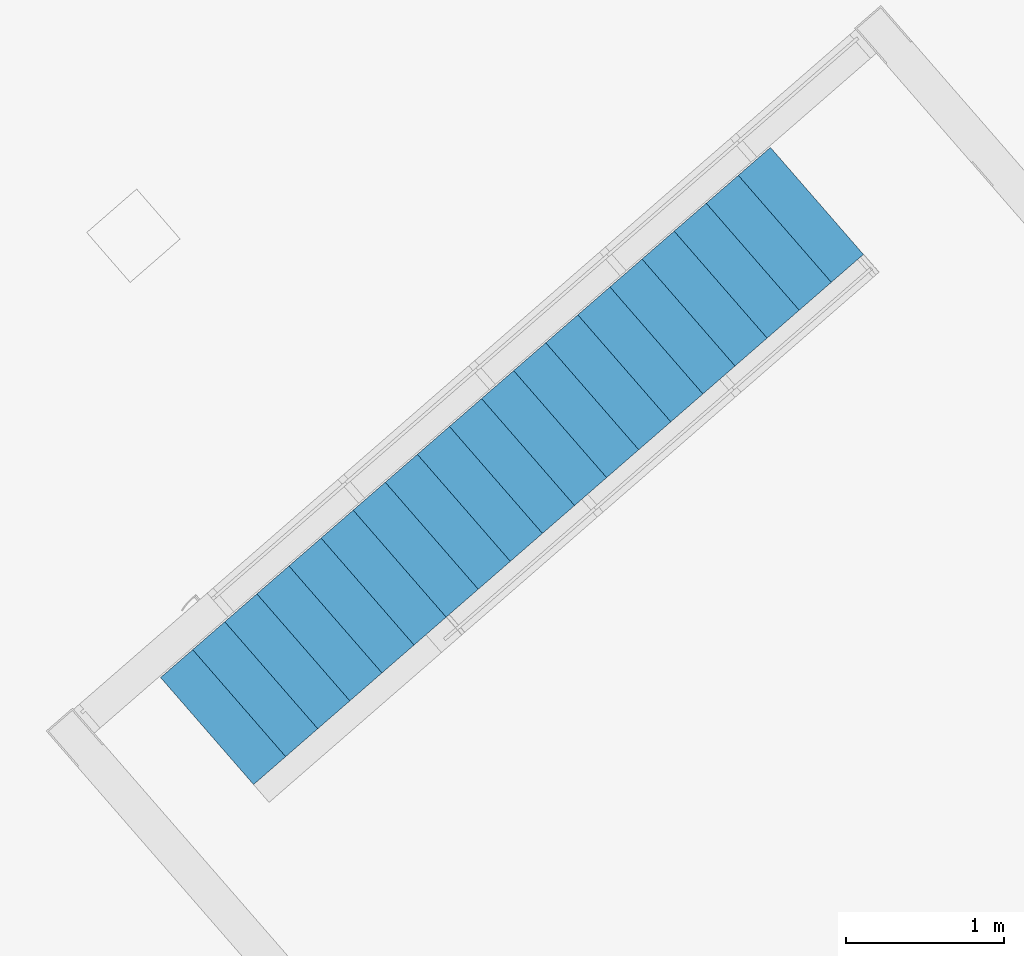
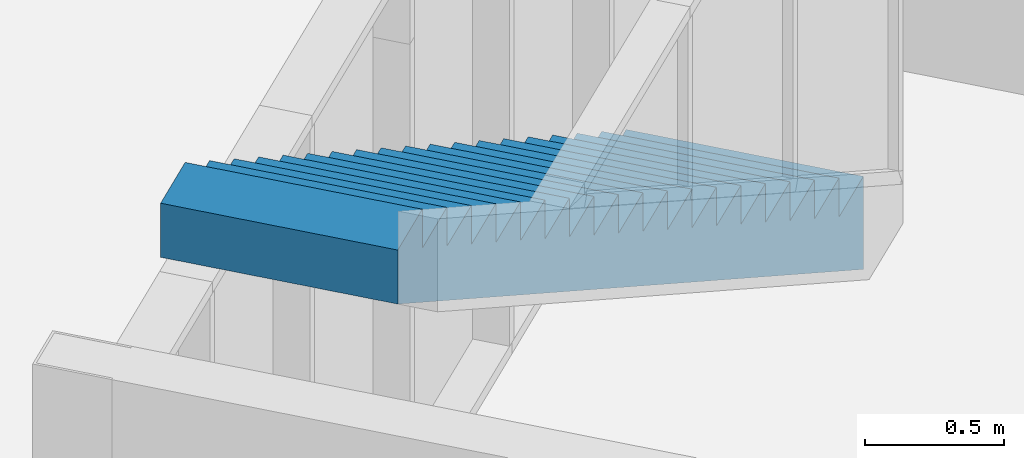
# One storey, part 102 of 124: 1 stair, 1 element without a shape of its own.
"""IFC2X3 building model written with IfcOpenShell, lengths in millimetres."""

from ifc_helpers import new_model, entity, si_unit, converted_unit, derived_unit, money_unit, direction, frame, origin_with_axes, place, context, subcontext, project, spatial, faceted_brep, material, element, aggregate, save


model = new_model("IFC2X3")

# Units and contexts
model_context = context("Model", 3, precision=1e-05, world=origin_with_axes(), true_north=direction((0.0, 1.0)))
body_context = subcontext(model_context, "Body", "Model", "MODEL_VIEW")
ifc_project = project(units=[si_unit("LENGTHUNIT", "METRE", prefix="MILLI"), si_unit("AREAUNIT", "SQUARE_METRE"), si_unit("VOLUMEUNIT", "CUBIC_METRE"), converted_unit("PLANEANGLEUNIT", "DEGREE", entity("IfcPlaneAngleMeasure", 0.0174532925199), si_unit("PLANEANGLEUNIT", "RADIAN"), dimensions=[0, 0, 0, 0, 0, 0, 0]), si_unit("SOLIDANGLEUNIT", "STERADIAN"), money_unit("EUR"), converted_unit("TIMEUNIT", "Year", entity("IfcTimeMeasure", 31556926.0), si_unit("TIMEUNIT", "SECOND"), dimensions=[0, 0, 1, 0, 0, 0, 0]), si_unit("MASSUNIT", "GRAM", prefix="KILO"), si_unit("THERMODYNAMICTEMPERATUREUNIT", "DEGREE_CELSIUS"), si_unit("LUMINOUSINTENSITYUNIT", "LUMEN"), si_unit("ENERGYUNIT", "JOULE", prefix="MEGA"), derived_unit("THERMALCONDUCTANCEUNIT", [(si_unit("POWERUNIT", "WATT"), 1), (si_unit("LENGTHUNIT", "METRE"), -1), (si_unit("THERMODYNAMICTEMPERATUREUNIT", "KELVIN"), -1)]), derived_unit("SPECIFICHEATCAPACITYUNIT", [(si_unit("ENERGYUNIT", "JOULE"), 1), (si_unit("MASSUNIT", "GRAM", prefix="KILO"), -1), (si_unit("THERMODYNAMICTEMPERATUREUNIT", "KELVIN"), -1)]), derived_unit("MASSDENSITYUNIT", [(si_unit("MASSUNIT", "GRAM", prefix="KILO"), 1), (si_unit("VOLUMEUNIT", "CUBIC_METRE"), -1)])], contexts=[model_context])

# Site, building, storey
site_placement = place(None, origin_with_axes())
site = spatial("IfcSite", under=ifc_project, at=site_placement, Name="Site", CompositionType="ELEMENT")
building_placement = place(site_placement, origin_with_axes())
building = spatial("IfcBuilding", under=site, at=building_placement, Name="Building", CompositionType="ELEMENT")
storey_placement = place(building_placement, frame((0.0, 0.0, -1615.0), z_axis=(0.0, 0.0, 1.0), x_axis=(1.0, 0.0, 0.0)))
storey = spatial("IfcBuildingStorey", under=building, at=storey_placement, Name="0  korrus", CompositionType="ELEMENT", Elevation=-1615.0)

# Stairs
stair_1_placement = place(storey_placement, frame((159587.108778, 89137.2805139, 0.0), z_axis=(0.0, 0.0, 1.0), x_axis=(0.00233643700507, -0.999997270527, 0.0)))
stair_1 = element("IfcStair", 1, at=stair_1_placement, inside=storey, Name="T-05", ShapeType="NOTDEFINED")
ifc_material = material(Name="GENEERILINE - KONSTRUKTRIOON")
stair_2_placement = place(stair_1_placement, origin_with_axes())
stair_2 = element("IfcStair", 2, at=stair_2_placement, material=ifc_material, Name="GENEERILINE - KONSTRUKTRIOON", ShapeType="NOTDEFINED", context=body_context, shape_type="Brep", body=[
    faceted_brep([(2675.91141923, -4468.37756646, 3244.25), (2675.91141923, -4468.37756646, 3007.61195328), (3356.52774379, -3879.51305, 3007.61195328), (3356.52774379, -3879.51305, 3244.25), (2617.02496759, -4400.315934, 2950.69528661), (2646.46819341, -4434.34675023, 2979.15361994), (2499.25206429, -4264.19266909, 3244.25), (2499.25206429, -4264.19266909, 3073.5), (2322.59270936, -4060.00777172, 3073.5), (2322.59270936, -4060.00777172, 2902.75), (2145.93335442, -3855.82287435, 2902.75), (2145.93335442, -3855.82287435, 2732.0), (1969.27399949, -3651.63797698, 2732.0), (1969.27399949, -3651.63797698, 2561.25), (1792.61464455, -3447.45307962, 2561.25), (1792.61464455, -3447.45307962, 2390.5), (1615.95528961, -3243.26818225, 2390.5), (1615.95528961, -3243.26818225, 2219.75), (1439.29593468, -3039.08328488, 2219.75), (1439.29593468, -3039.08328488, 2049.0), (1262.63657974, -2834.89838751, 2049.0), (1262.63657974, -2834.89838751, 1878.25), (1085.9772248, -2630.71349014, 1878.25), (1085.9772248, -2630.71349014, 1707.5), (909.317869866, -2426.52859277, 1707.5), (909.317869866, -2426.52859277, 1536.75), (732.65851493, -2222.3436954, 1536.75), (732.65851493, -2222.3436954, 1366.0), (555.999159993, -2018.15879804, 1366.0), (555.999159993, -2018.15879804, 1195.25), (379.339805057, -1813.97390067, 1195.25), (379.339805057, -1813.97390067, 1024.5), (202.68045012, -1609.7890033, 1024.5), (202.68045012, -1609.7890033, 853.75), (26.021095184, -1405.60410593, 853.75), (26.021095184, -1405.60410593, 683.0), (-150.638259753, -1201.41920856, 683.0), (-150.638259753, -1201.41920856, 512.25), (-327.297614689, -997.234311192, 512.25), (-327.297614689, -997.234311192, 341.5), (-503.956969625, -793.049413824, 341.5), (-503.956969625, -793.049413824, 170.75), (-680.616324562, -588.864516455, 170.75), (-680.616324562, -588.864516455, -236.638046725), (-651.173098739, -622.895332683, -208.179713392), (-621.729872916, -656.926148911, -179.721380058), (-592.286647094, -690.956965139, -151.263046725), (-562.843421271, -724.987781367, -122.804713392), (-533.400195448, -759.018597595, -94.3463800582), (-503.956969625, -793.049413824, -65.8880467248), (-474.513743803, -827.080230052, -37.4297133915), (-445.07051798, -861.11104628, -8.97138005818), (-415.627292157, -895.141862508, 19.4869532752), (-386.184066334, -929.172678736, 47.9452866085), (-356.740840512, -963.203494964, 76.4036199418), (-327.297614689, -997.234311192, 104.861953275), (-297.854388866, -1031.26512742, 133.320286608), (-268.411163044, -1065.29594365, 161.778619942), (-238.967937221, -1099.32675988, 190.236953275), (-209.524711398, -1133.3575761, 218.695286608), (-180.081485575, -1167.38839233, 247.153619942), (-150.638259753, -1201.41920856, 275.611953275), (-121.19503393, -1235.45002479, 304.070286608), (-91.751808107, -1269.48084102, 332.528619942), (-62.3085822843, -1303.51165725, 360.986953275), (-32.8653564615, -1337.54247347, 389.445286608), (-3.42213063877, -1371.5732897, 417.903619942), (26.021095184, -1405.60410593, 446.361953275), (55.4643210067, -1439.63492216, 474.820286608), (84.9075468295, -1473.66573839, 503.278619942), (114.350772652, -1507.69655461, 531.736953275), (143.793998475, -1541.72737084, 560.195286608), (173.237224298, -1575.75818707, 588.653619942), (202.68045012, -1609.7890033, 617.111953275), (232.123675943, -1643.81981953, 645.570286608), (261.566901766, -1677.85063575, 674.028619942), (291.010127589, -1711.88145198, 702.486953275), (320.453353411, -1745.91226821, 730.945286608), (349.896579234, -1779.94308444, 759.403619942), (379.339805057, -1813.97390067, 787.861953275), (408.78303088, -1848.00471689, 816.320286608), (438.226256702, -1882.03553312, 844.778619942), (467.669482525, -1916.06634935, 873.236953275), (497.112708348, -1950.09716558, 901.695286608), (526.555934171, -1984.12798181, 930.153619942), (555.999159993, -2018.15879804, 958.611953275), (585.442385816, -2052.18961426, 987.070286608), (614.885611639, -2086.22043049, 1015.52861994), (644.328837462, -2120.25124672, 1043.98695328), (673.772063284, -2154.28206295, 1072.44528661), (703.215289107, -2188.31287918, 1100.90361994), (732.65851493, -2222.3436954, 1129.36195328), (762.101740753, -2256.37451163, 1157.82028661), (791.544966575, -2290.40532786, 1186.27861994), (820.988192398, -2324.43614409, 1214.73695328), (850.431418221, -2358.46696032, 1243.19528661), (879.874644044, -2392.49777654, 1271.65361994), (909.317869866, -2426.52859277, 1300.11195328), (938.761095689, -2460.559409, 1328.57028661), (968.204321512, -2494.59022523, 1357.02861994), (997.647547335, -2528.62104146, 1385.48695328), (1027.09077316, -2562.65185768, 1413.94528661), (1056.53399898, -2596.68267391, 1442.40361994), (1085.9772248, -2630.71349014, 1470.86195328), (1115.42045063, -2664.74430637, 1499.32028661), (1144.86367645, -2698.7751226, 1527.77861994), (1174.30690227, -2732.80593883, 1556.23695328), (1203.75012809, -2766.83675505, 1584.69528661), (1233.19335392, -2800.86757128, 1613.15361994), (1262.63657974, -2834.89838751, 1641.61195328), (1292.07980556, -2868.92920374, 1670.07028661), (1321.52303138, -2902.96001997, 1698.52861994), (1350.96625721, -2936.99083619, 1726.98695328), (1380.40948303, -2971.02165242, 1755.44528661), (1409.85270885, -3005.05246865, 1783.90361994), (1439.29593468, -3039.08328488, 1812.36195328), (1468.7391605, -3073.11410111, 1840.82028661), (1498.18238632, -3107.14491733, 1869.27861994), (1527.62561214, -3141.17573356, 1897.73695328), (1557.06883797, -3175.20654979, 1926.19528661), (1586.51206379, -3209.23736602, 1954.65361994), (1615.95528961, -3243.26818225, 1983.11195328), (1645.39851544, -3277.29899847, 2011.57028661), (1674.84174126, -3311.3298147, 2040.02861994), (1704.28496708, -3345.36063093, 2068.48695328), (1733.7281929, -3379.39144716, 2096.94528661), (1763.17141873, -3413.42226339, 2125.40361994), (1792.61464455, -3447.45307962, 2153.86195328), (1822.05787037, -3481.48389584, 2182.32028661), (1851.50109619, -3515.51471207, 2210.77861994), (1880.94432202, -3549.5455283, 2239.23695328), (1910.38754784, -3583.57634453, 2267.69528661), (1939.83077366, -3617.60716076, 2296.15361994), (1969.27399949, -3651.63797698, 2324.61195328), (1998.71722531, -3685.66879321, 2353.07028661), (2028.16045113, -3719.69960944, 2381.52861994), (2057.60367695, -3753.73042567, 2409.98695328), (2087.04690278, -3787.7612419, 2438.44528661), (2116.4901286, -3821.79205812, 2466.90361994), (2145.93335442, -3855.82287435, 2495.36195328), (2175.37658024, -3889.85369058, 2523.82028661), (2204.81980607, -3923.88450681, 2552.27861994), (2234.26303189, -3957.91532304, 2580.73695328), (2263.70625771, -3991.94613926, 2609.19528661), (2293.14948354, -4025.97695549, 2637.65361994), (2322.59270936, -4060.00777172, 2666.11195328), (2352.03593518, -4094.03858795, 2694.57028661), (2381.479161, -4128.06940418, 2723.02861994), (2410.92238683, -4162.10022041, 2751.48695328), (2440.36561265, -4196.13103663, 2779.94528661), (2469.80883847, -4230.16185286, 2808.40361994), (2499.25206429, -4264.19266909, 2836.86195328), (2528.69529012, -4298.22348532, 2865.32028661), (2558.13851594, -4332.25430155, 2893.77861994), (2587.58174176, -4366.28511777, 2922.23695328), (3327.08451797, -3845.48223378, 2979.15361994), (2957.33312987, -4105.88367577, 2950.69528661), (58.8864516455, -68.0616324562, -179.721380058), (29.4432258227, -34.0308162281, -208.179713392), (0.0, 0.0, -236.638046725), (0.0, 0.0, 170.75), (176.659354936, -204.184897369, 170.75), (176.659354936, -204.184897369, 341.5), (353.318709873, -408.369794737, 341.5), (353.318709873, -408.369794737, 512.25), (529.978064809, -612.554692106, 512.25), (529.978064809, -612.554692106, 683.0), (706.637419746, -816.739589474, 683.0), (706.637419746, -816.739589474, 853.75), (883.296774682, -1020.92448684, 853.75), (883.296774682, -1020.92448684, 1024.5), (1059.95612962, -1225.10938421, 1024.5), (1059.95612962, -1225.10938421, 1195.25), (1236.61548456, -1429.29428158, 1195.25), (1236.61548456, -1429.29428158, 1366.0), (1413.27483949, -1633.47917895, 1366.0), (1413.27483949, -1633.47917895, 1536.75), (1589.93419443, -1837.66407632, 1536.75), (1589.93419443, -1837.66407632, 1707.5), (1766.59354936, -2041.84897369, 1707.5), (1766.59354936, -2041.84897369, 1878.25), (1943.2529043, -2246.03387105, 1878.25), (1943.2529043, -2246.03387105, 2049.0), (2119.91225924, -2450.21876842, 2049.0), (2119.91225924, -2450.21876842, 2219.75), (2296.57161417, -2654.40366579, 2219.75), (2296.57161417, -2654.40366579, 2390.5), (2473.23096911, -2858.58856316, 2390.5), (2473.23096911, -2858.58856316, 2561.25), (2649.89032405, -3062.77346053, 2561.25), (2649.89032405, -3062.77346053, 2732.0), (2826.54967898, -3266.9583579, 2732.0), (2826.54967898, -3266.9583579, 2902.75), (3003.20903392, -3471.14325527, 2902.75), (3003.20903392, -3471.14325527, 3073.5), (3179.86838886, -3675.32815263, 3073.5), (3179.86838886, -3675.32815263, 3244.25), (3297.64129215, -3811.45141755, 2950.69528661), (3268.19806633, -3777.42060132, 2922.23695328), (3238.7548405, -3743.38978509, 2893.77861994), (3209.31161468, -3709.35896886, 2865.32028661), (3179.86838886, -3675.32815263, 2836.86195328), (3150.42516303, -3641.29733641, 2808.40361994), (3120.98193721, -3607.26652018, 2779.94528661), (3091.53871139, -3573.23570395, 2751.48695328), (3062.09548557, -3539.20488772, 2723.02861994), (3032.65225974, -3505.17407149, 2694.57028661), (3003.20903392, -3471.14325527, 2666.11195328), (2973.7658081, -3437.11243904, 2637.65361994), (2944.32258227, -3403.08162281, 2609.19528661), (2914.87935645, -3369.05080658, 2580.73695328), (2885.43613063, -3335.01999035, 2552.27861994), (2855.99290481, -3300.98917413, 2523.82028661), (2826.54967898, -3266.9583579, 2495.36195328), (2797.10645316, -3232.92754167, 2466.90361994), (2767.66322734, -3198.89672544, 2438.44528661), (2738.22000152, -3164.86590921, 2409.98695328), (2708.77677569, -3130.83509299, 2381.52861994), (2679.33354987, -3096.80427676, 2353.07028661), (2649.89032405, -3062.77346053, 2324.61195328), (2620.44709822, -3028.7426443, 2296.15361994), (2591.0038724, -2994.71182807, 2267.69528661), (2561.56064658, -2960.68101184, 2239.23695328), (2532.11742076, -2926.65019562, 2210.77861994), (2502.67419493, -2892.61937939, 2182.32028661), (2473.23096911, -2858.58856316, 2153.86195328), (2443.78774329, -2824.55774693, 2125.40361994), (2414.34451747, -2790.5269307, 2096.94528661), (2384.90129164, -2756.49611448, 2068.48695328), (2355.45806582, -2722.46529825, 2040.02861994), (2326.01484, -2688.43448202, 2011.57028661), (2296.57161417, -2654.40366579, 1983.11195328), (2267.12838835, -2620.37284956, 1954.65361994), (2237.68516253, -2586.34203334, 1926.19528661), (2208.24193671, -2552.31121711, 1897.73695328), (2178.79871088, -2518.28040088, 1869.27861994), (2149.35548506, -2484.24958465, 1840.82028661), (2119.91225924, -2450.21876842, 1812.36195328), (2090.46903342, -2416.1879522, 1783.90361994), (2061.02580759, -2382.15713597, 1755.44528661), (2031.58258177, -2348.12631974, 1726.98695328), (2002.13935595, -2314.09550351, 1698.52861994), (1972.69613012, -2280.06468728, 1670.07028661), (1943.2529043, -2246.03387105, 1641.61195328), (1913.80967848, -2212.00305483, 1613.15361994), (1884.36645266, -2177.9722386, 1584.69528661), (1854.92322683, -2143.94142237, 1556.23695328), (1825.48000101, -2109.91060614, 1527.77861994), (1796.03677519, -2075.87978991, 1499.32028661), (1766.59354936, -2041.84897369, 1470.86195328), (1737.15032354, -2007.81815746, 1442.40361994), (1707.70709772, -1973.78734123, 1413.94528661), (1678.2638719, -1939.756525, 1385.48695328), (1648.82064607, -1905.72570877, 1357.02861994), (1619.37742025, -1871.69489255, 1328.57028661), (1589.93419443, -1837.66407632, 1300.11195328), (1560.49096861, -1803.63326009, 1271.65361994), (1531.04774278, -1769.60244386, 1243.19528661), (1501.60451696, -1735.57162763, 1214.73695328), (1472.16129114, -1701.5408114, 1186.27861994), (1442.71806531, -1667.50999518, 1157.82028661), (1413.27483949, -1633.47917895, 1129.36195328), (1383.83161367, -1599.44836272, 1100.90361994), (1354.38838785, -1565.41754649, 1072.44528661), (1324.94516202, -1531.38673026, 1043.98695328), (1295.5019362, -1497.35591404, 1015.52861994), (1266.05871038, -1463.32509781, 987.070286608), (1236.61548456, -1429.29428158, 958.611953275), (1207.17225873, -1395.26346535, 930.153619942), (1177.72903291, -1361.23264912, 901.695286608), (1148.28580709, -1327.2018329, 873.236953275), (1118.84258126, -1293.17101667, 844.778619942), (1089.39935544, -1259.14020044, 816.320286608), (1059.95612962, -1225.10938421, 787.861953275), (1030.5129038, -1191.07856798, 759.403619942), (1001.06967797, -1157.04775176, 730.945286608), (971.626452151, -1123.01693553, 702.486953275), (942.183226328, -1088.9861193, 674.028619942), (912.740000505, -1054.95530307, 645.570286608), (883.296774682, -1020.92448684, 617.111953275), (853.85354886, -986.893670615, 588.653619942), (824.410323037, -952.862854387, 560.195286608), (794.967097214, -918.832038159, 531.736953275), (765.523871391, -884.801221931, 503.278619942), (736.080645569, -850.770405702, 474.820286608), (706.637419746, -816.739589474, 446.361953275), (677.194193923, -782.708773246, 417.903619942), (647.7509681, -748.677957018, 389.445286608), (618.307742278, -714.64714079, 360.986953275), (588.864516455, -680.616324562, 332.528619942), (559.421290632, -646.585508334, 304.070286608), (529.978064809, -612.554692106, 275.611953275), (500.534838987, -578.523875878, 247.153619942), (471.091613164, -544.49305965, 218.695286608), (441.648387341, -510.462243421, 190.236953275), (412.205161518, -476.431427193, 161.778619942), (382.761935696, -442.400610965, 133.320286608), (353.318709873, -408.369794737, 104.861953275), (323.87548405, -374.338978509, 76.4036199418), (294.432258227, -340.308162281, 47.9452866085), (264.989032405, -306.277346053, 19.4869532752), (235.545806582, -272.246529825, -8.97138005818), (206.102580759, -238.215713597, -37.4297133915), (176.659354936, -204.184897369, -65.8880467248), (147.216129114, -170.15408114, -94.3463800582), (117.772903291, -136.123264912, -122.804713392), (88.3296774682, -102.092448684, -151.263046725), (-281.421710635, -362.493890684, -179.721380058), (-222.53525899, -430.55552314, -122.804713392), (-163.648807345, -498.617155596, -65.8880467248), (-104.762355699, -566.678788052, -8.97138005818), (-45.8759040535, -634.740420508, 47.9452866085), (13.010547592, -702.802052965, 104.861953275), (71.8969992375, -770.863685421, 161.778619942), (130.783450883, -838.925317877, 218.695286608), (189.669902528, -906.986950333, 275.611953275), (248.556354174, -975.048582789, 332.528619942), (307.442805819, -1043.11021525, 389.445286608), (366.329257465, -1111.1718477, 446.361953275), (425.21570911, -1179.23348016, 503.278619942), (484.102160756, -1247.29511261, 560.195286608), (542.988612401, -1315.35674507, 617.111953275), (601.875064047, -1383.41837753, 674.028619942), (660.761515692, -1451.48000998, 730.945286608), (719.647967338, -1519.54164244, 787.861953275), (778.534418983, -1587.6032749, 844.778619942), (837.420870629, -1655.66490735, 901.695286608), (896.307322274, -1723.72653981, 958.611953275), (955.19377392, -1791.78817226, 1015.52861994), (1014.08022557, -1859.84980472, 1072.44528661), (1072.96667721, -1927.91143718, 1129.36195328), (1131.85312886, -1995.97306963, 1186.27861994), (1190.7395805, -2064.03470209, 1243.19528661), (1249.62603215, -2132.09633454, 1300.11195328), (1308.51248379, -2200.157967, 1357.02861994), (1367.39893544, -2268.21959946, 1413.94528661), (1426.28538708, -2336.28123191, 1470.86195328), (1485.17183873, -2404.34286437, 1527.77861994), (1544.05829037, -2472.40449683, 1584.69528661), (1602.94474202, -2540.46612928, 1641.61195328), (1661.83119367, -2608.52776174, 1698.52861994), (1720.71764531, -2676.58939419, 1755.44528661), (1779.60409696, -2744.65102665, 1812.36195328), (1838.4905486, -2812.71265911, 1869.27861994), (1897.37700025, -2880.77429156, 1926.19528661), (1956.26345189, -2948.83592402, 1983.11195328), (2015.14990354, -3016.89755648, 2040.02861994), (2074.03635518, -3084.95918893, 2096.94528661), (2132.92280683, -3153.02082139, 2153.86195328), (2191.80925848, -3221.08245384, 2210.77861994), (2250.69571012, -3289.1440863, 2267.69528661), (2309.58216177, -3357.20571876, 2324.61195328), (2368.46861341, -3425.26735121, 2381.52861994), (2427.35506506, -3493.32898367, 2438.44528661), (2486.2415167, -3561.39061612, 2495.36195328), (2545.12796835, -3629.45224858, 2552.27861994), (2604.01441999, -3697.51388104, 2609.19528661), (2662.90087164, -3765.57551349, 2666.11195328), (2721.78732328, -3833.63714595, 2723.02861994), (2780.67377493, -3901.69877841, 2779.94528661), (2839.56022658, -3969.76041086, 2836.86195328), (2898.44667822, -4037.82204332, 2893.77861994)], [[[0, 1, 2, 3]], [[4, 5, 1, 0, 6, 7, 8, 9, 10, 11, 12, 13, 14, 15, 16, 17, 18, 19, 20, 21, 22, 23, 24, 25, 26, 27, 28, 29, 30, 31, 32, 33, 34, 35, 36, 37, 38, 39, 40, 41, 42, 43, 44, 45, 46, 47, 48, 49, 50, 51, 52, 53, 54, 55, 56, 57, 58, 59, 60, 61, 62, 63, 64, 65, 66, 67, 68, 69, 70, 71, 72, 73, 74, 75, 76, 77, 78, 79, 80, 81, 82, 83, 84, 85, 86, 87, 88, 89, 90, 91, 92, 93, 94, 95, 96, 97, 98, 99, 100, 101, 102, 103, 104, 105, 106, 107, 108, 109, 110, 111, 112, 113, 114, 115, 116, 117, 118, 119, 120, 121, 122, 123, 124, 125, 126, 127, 128, 129, 130, 131, 132, 133, 134, 135, 136, 137, 138, 139, 140, 141, 142, 143, 144, 145, 146, 147, 148, 149, 150, 151, 152, 153, 154]], [[155, 2, 1, 5, 156]], [[157, 158, 159, 160, 161, 162, 163, 164, 165, 166, 167, 168, 169, 170, 171, 172, 173, 174, 175, 176, 177, 178, 179, 180, 181, 182, 183, 184, 185, 186, 187, 188, 189, 190, 191, 192, 193, 194, 195, 196, 3, 2, 155, 197, 198, 199, 200, 201, 202, 203, 204, 205, 206, 207, 208, 209, 210, 211, 212, 213, 214, 215, 216, 217, 218, 219, 220, 221, 222, 223, 224, 225, 226, 227, 228, 229, 230, 231, 232, 233, 234, 235, 236, 237, 238, 239, 240, 241, 242, 243, 244, 245, 246, 247, 248, 249, 250, 251, 252, 253, 254, 255, 256, 257, 258, 259, 260, 261, 262, 263, 264, 265, 266, 267, 268, 269, 270, 271, 272, 273, 274, 275, 276, 277, 278, 279, 280, 281, 282, 283, 284, 285, 286, 287, 288, 289, 290, 291, 292, 293, 294, 295, 296, 297, 298, 299, 300, 301, 302, 303, 304, 305, 306]], [[6, 0, 3, 196]], [[156, 5, 4]], [[6, 196, 195, 7]], [[194, 8, 7, 195]], [[8, 194, 193, 9]], [[192, 10, 9, 193]], [[10, 192, 191, 11]], [[190, 12, 11, 191]], [[12, 190, 189, 13]], [[188, 14, 13, 189]], [[14, 188, 187, 15]], [[186, 16, 15, 187]], [[16, 186, 185, 17]], [[184, 18, 17, 185]], [[18, 184, 183, 19]], [[182, 20, 19, 183]], [[20, 182, 181, 21]], [[180, 22, 21, 181]], [[22, 180, 179, 23]], [[178, 24, 23, 179]], [[24, 178, 177, 25]], [[176, 26, 25, 177]], [[26, 176, 175, 27]], [[174, 28, 27, 175]], [[28, 174, 173, 29]], [[172, 30, 29, 173]], [[30, 172, 171, 31]], [[170, 32, 31, 171]], [[32, 170, 169, 33]], [[168, 34, 33, 169]], [[34, 168, 167, 35]], [[166, 36, 35, 167]], [[36, 166, 165, 37]], [[164, 38, 37, 165]], [[38, 164, 163, 39]], [[162, 40, 39, 163]], [[40, 162, 161, 41]], [[160, 42, 41, 161]], [[160, 159, 43, 42]], [[43, 159, 158, 307, 44]], [[307, 45, 44]], [[307, 46, 45]], [[308, 47, 46]], [[308, 48, 47]], [[309, 49, 48]], [[309, 50, 49]], [[310, 51, 50]], [[310, 52, 51]], [[311, 53, 52]], [[311, 54, 53]], [[312, 55, 54]], [[312, 56, 55]], [[313, 57, 56]], [[313, 58, 57]], [[314, 59, 58]], [[314, 60, 59]], [[315, 61, 60]], [[315, 62, 61]], [[316, 63, 62]], [[316, 64, 63]], [[317, 65, 64]], [[317, 66, 65]], [[318, 67, 66]], [[318, 68, 67]], [[319, 69, 68]], [[319, 70, 69]], [[320, 71, 70]], [[320, 72, 71]], [[321, 73, 72]], [[321, 74, 73]], [[322, 75, 74]], [[322, 76, 75]], [[323, 77, 76]], [[323, 78, 77]], [[324, 79, 78]], [[324, 80, 79]], [[325, 81, 80]], [[325, 82, 81]], [[326, 83, 82]], [[326, 84, 83]], [[327, 85, 84]], [[327, 86, 85]], [[328, 87, 86]], [[328, 88, 87]], [[329, 89, 88]], [[329, 90, 89]], [[330, 91, 90]], [[330, 92, 91]], [[331, 93, 92]], [[331, 94, 93]], [[332, 95, 94]], [[332, 96, 95]], [[333, 97, 96]], [[333, 98, 97]], [[334, 99, 98]], [[334, 100, 99]], [[335, 101, 100]], [[335, 102, 101]], [[336, 103, 102]], [[336, 104, 103]], [[337, 105, 104]], [[337, 106, 105]], [[338, 107, 106]], [[338, 108, 107]], [[339, 109, 108]], [[339, 110, 109]], [[340, 111, 110]], [[340, 112, 111]], [[341, 113, 112]], [[341, 114, 113]], [[342, 115, 114]], [[342, 116, 115]], [[343, 117, 116]], [[343, 118, 117]], [[344, 119, 118]], [[344, 120, 119]], [[345, 121, 120]], [[345, 122, 121]], [[346, 123, 122]], [[346, 124, 123]], [[347, 125, 124]], [[347, 126, 125]], [[348, 127, 126]], [[348, 128, 127]], [[349, 129, 128]], [[349, 130, 129]], [[350, 131, 130]], [[350, 132, 131]], [[351, 133, 132]], [[351, 134, 133]], [[352, 135, 134]], [[352, 136, 135]], [[353, 137, 136]], [[353, 138, 137]], [[354, 139, 138]], [[354, 140, 139]], [[355, 141, 140]], [[355, 142, 141]], [[356, 143, 142]], [[356, 144, 143]], [[357, 145, 144]], [[357, 146, 145]], [[358, 147, 146]], [[358, 148, 147]], [[359, 149, 148]], [[359, 150, 149]], [[360, 151, 150]], [[360, 152, 151]], [[361, 153, 152]], [[361, 154, 153]], [[156, 4, 154]], [[156, 197, 155]], [[307, 158, 157]], [[156, 198, 197]], [[361, 199, 198]], [[361, 200, 199]], [[360, 201, 200]], [[360, 202, 201]], [[359, 203, 202]], [[359, 204, 203]], [[358, 205, 204]], [[358, 206, 205]], [[357, 207, 206]], [[357, 208, 207]], [[356, 209, 208]], [[356, 210, 209]], [[355, 211, 210]], [[355, 212, 211]], [[354, 213, 212]], [[354, 214, 213]], [[353, 215, 214]], [[353, 216, 215]], [[352, 217, 216]], [[352, 218, 217]], [[351, 219, 218]], [[351, 220, 219]], [[350, 221, 220]], [[350, 222, 221]], [[349, 223, 222]], [[349, 224, 223]], [[348, 225, 224]], [[348, 226, 225]], [[347, 227, 226]], [[347, 228, 227]], [[346, 229, 228]], [[346, 230, 229]], [[345, 231, 230]], [[345, 232, 231]], [[344, 233, 232]], [[344, 234, 233]], [[343, 235, 234]], [[343, 236, 235]], [[342, 237, 236]], [[342, 238, 237]], [[341, 239, 238]], [[341, 240, 239]], [[340, 241, 240]], [[340, 242, 241]], [[339, 243, 242]], [[339, 244, 243]], [[338, 245, 244]], [[338, 246, 245]], [[337, 247, 246]], [[337, 248, 247]], [[336, 249, 248]], [[336, 250, 249]], [[335, 251, 250]], [[335, 252, 251]], [[334, 253, 252]], [[334, 254, 253]], [[333, 255, 254]], [[333, 256, 255]], [[332, 257, 256]], [[332, 258, 257]], [[331, 259, 258]], [[331, 260, 259]], [[330, 261, 260]], [[330, 262, 261]], [[329, 263, 262]], [[329, 264, 263]], [[328, 265, 264]], [[328, 266, 265]], [[327, 267, 266]], [[327, 268, 267]], [[326, 269, 268]], [[326, 270, 269]], [[325, 271, 270]], [[325, 272, 271]], [[324, 273, 272]], [[324, 274, 273]], [[323, 275, 274]], [[323, 276, 275]], [[322, 277, 276]], [[322, 278, 277]], [[321, 279, 278]], [[321, 280, 279]], [[320, 281, 280]], [[320, 282, 281]], [[319, 283, 282]], [[319, 284, 283]], [[318, 285, 284]], [[318, 286, 285]], [[317, 287, 286]], [[317, 288, 287]], [[316, 289, 288]], [[316, 290, 289]], [[315, 291, 290]], [[315, 292, 291]], [[314, 293, 292]], [[314, 294, 293]], [[313, 295, 294]], [[313, 296, 295]], [[312, 297, 296]], [[312, 298, 297]], [[311, 299, 298]], [[311, 300, 299]], [[310, 301, 300]], [[310, 302, 301]], [[309, 303, 302]], [[309, 304, 303]], [[308, 305, 304]], [[308, 306, 305]], [[307, 157, 306]], [[307, 306, 308, 46]], [[308, 304, 309, 48]], [[309, 302, 310, 50]], [[310, 300, 311, 52]], [[311, 298, 312, 54]], [[296, 313, 56, 312]], [[313, 294, 314, 58]], [[314, 292, 315, 60]], [[290, 316, 62, 315]], [[316, 288, 317, 64]], [[286, 318, 66, 317]], [[318, 284, 319, 68]], [[282, 320, 70, 319]], [[280, 321, 72, 320]], [[278, 322, 74, 321]], [[322, 276, 323, 76]], [[274, 324, 78, 323]], [[324, 272, 325, 80]], [[325, 270, 326, 82]], [[268, 327, 84, 326]], [[266, 328, 86, 327]], [[264, 329, 88, 328]], [[329, 262, 330, 90]], [[260, 331, 92, 330]], [[258, 332, 94, 331]], [[332, 256, 333, 96]], [[254, 334, 98, 333]], [[334, 252, 335, 100]], [[250, 336, 102, 335]], [[248, 337, 104, 336]], [[337, 246, 338, 106]], [[244, 339, 108, 338]], [[339, 242, 340, 110]], [[340, 240, 341, 112]], [[341, 238, 342, 114]], [[236, 343, 116, 342]], [[343, 234, 344, 118]], [[232, 345, 120, 344]], [[345, 230, 346, 122]], [[346, 228, 347, 124]], [[347, 226, 348, 126]], [[224, 349, 128, 348]], [[349, 222, 350, 130]], [[220, 351, 132, 350]], [[351, 218, 352, 134]], [[352, 216, 353, 136]], [[353, 214, 354, 138]], [[354, 212, 355, 140]], [[210, 356, 142, 355]], [[356, 208, 357, 144]], [[206, 358, 146, 357]], [[358, 204, 359, 148]], [[359, 202, 360, 150]], [[360, 200, 361, 152]], [[198, 156, 154, 361]]]),
])
aggregate(stair_1, [stair_2])

save(model, "model.ifc")
